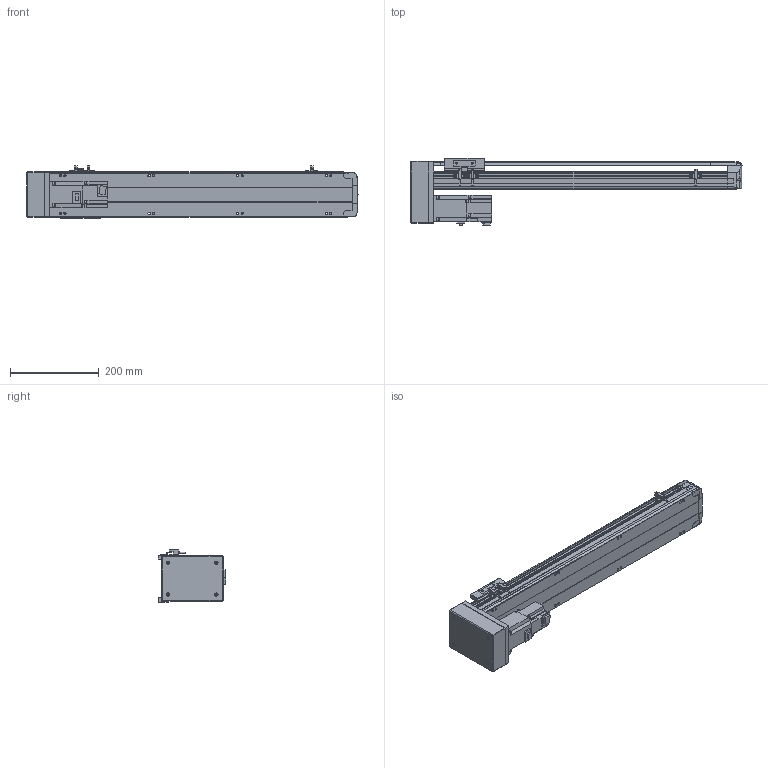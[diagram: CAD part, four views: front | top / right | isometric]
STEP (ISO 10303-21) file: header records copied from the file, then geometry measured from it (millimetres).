
FILE_DESCRIPTION(/* description */ ('STEP AP214'),/* implementation_level */ '2;1');
FILE_NAME(/* name */ 'PSS120-L10-S500-BM-T40-C1-N(0)',/* time_stamp */ '2022-06-06T02:26:36+02:00',/* author */ ('License CC BY-ND 4.0'),/* organization */ ('CADENAS'),/* preprocessor_version */ 'ST-DEVELOPER v18.102',/* originating_system */ 'PARTsolutions',/* authorisation */ ' ');
FILE_SCHEMA (('AUTOMOTIVE_DESIGN {1 0 10303 214 3 1 1}'));
Length unit declared in the file: millimetre
Products named in the file (8): PSS120-L10-S500-BM-T40-C1-N(0); PSS120-S500-BM-N_S; T40-p1; PSS120BM-N_h; PSS120-N_sensor; PSS120-BM-C1-N_sl; PSS120-N_Q; PSS120-S500-BM-C1-N_body
Assembly tree (9 placements, depth 2):
  PSS120-L10-S500-BM-T40-C1-N(0)
    PSS120-S500-BM-N_S
    T40-p1
    PSS120BM-N_h
    PSS120-N_sensor  x3
    PSS120-BM-C1-N_sl
    PSS120-N_Q
    PSS120-S500-BM-C1-N_body
Bounding box: 749.35 x 151.8 x 117.7 mm (x, y, z)
Volume: 3362502 mm3; surface area: 546007.4 mm2
Topology: 9 solids, 9 shells, 809 faces, 2181 edges, 1448 vertices
Faces by surface type: plane 568, cylinder 221, cone 16, sphere 4
Full cylindrical faces by diameter (mm): 2.8 x3, 4 x4, 4.134 x12, 4.4 x2, 4.5 x4, 4.6 x3, 5 x6, 5.5 x15, 7 x2, 7.4 x4, 8 x4, 8.5 x12, 14 x1, 28 x1, 32 x2, 50 x1
Entity records: 21857 total; most frequent: CARTESIAN_POINT 3964, DIRECTION 3631, ORIENTED_EDGE 3574, EDGE_CURVE 1787, LINE 1285, VECTOR 1285, VERTEX_POINT 1238, AXIS2_PLACEMENT_3D 1173
